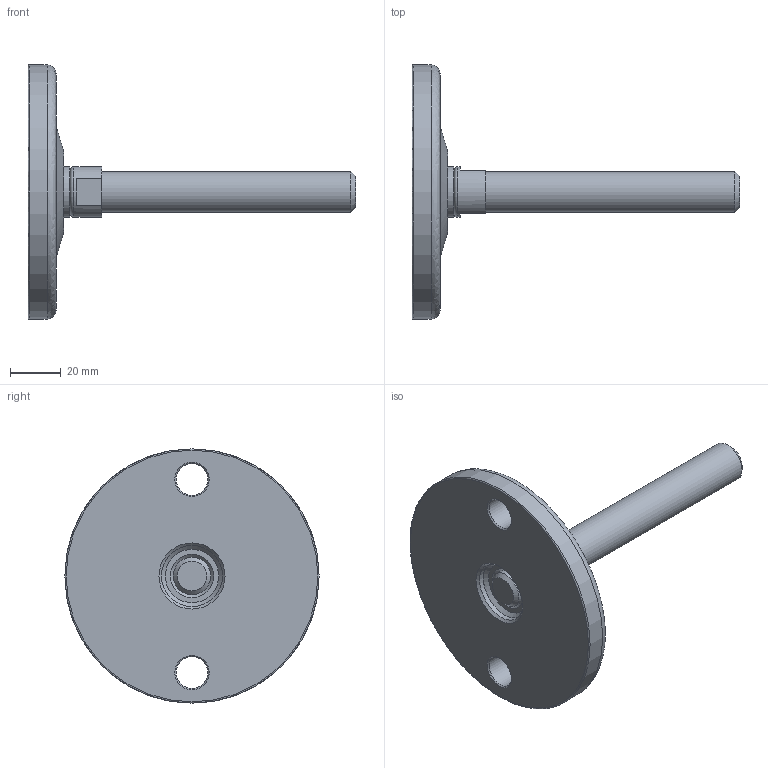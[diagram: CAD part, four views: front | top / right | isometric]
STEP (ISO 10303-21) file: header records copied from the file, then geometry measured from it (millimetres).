
FILE_DESCRIPTION(('STEP AP203'),'2;1');
FILE_NAME('15210.stp','2015-05-29T13:10:14',(''),(''),'2008.1.107','THINKDESIGN','');
FILE_SCHEMA(('CONFIG_CONTROL_DESIGN'));
Length unit declared in the file: millimetre
Bounding box: 129 x 100 x 100 mm (x, y, z)
Volume: 109890.4 mm3; surface area: 27657.1 mm2
Topology: 5 solids, 5 shells, 40 faces, 103 edges, 77 vertices
Faces by surface type: plane 17, bspline 14, cylinder 9
Full cylindrical faces by diameter (mm): 12.5 x2, 14.7 x2, 16 x1, 20 x2, 24 x1, 100 x1
Entity records: 2577 total; most frequent: CARTESIAN_POINT 1357, DIRECTION 230, ORIENTED_EDGE 204, EDGE_CURVE 102, AXIS2_PLACEMENT_3D 101, VERTEX_POINT 75, CIRCLE 75, EDGE_LOOP 49
